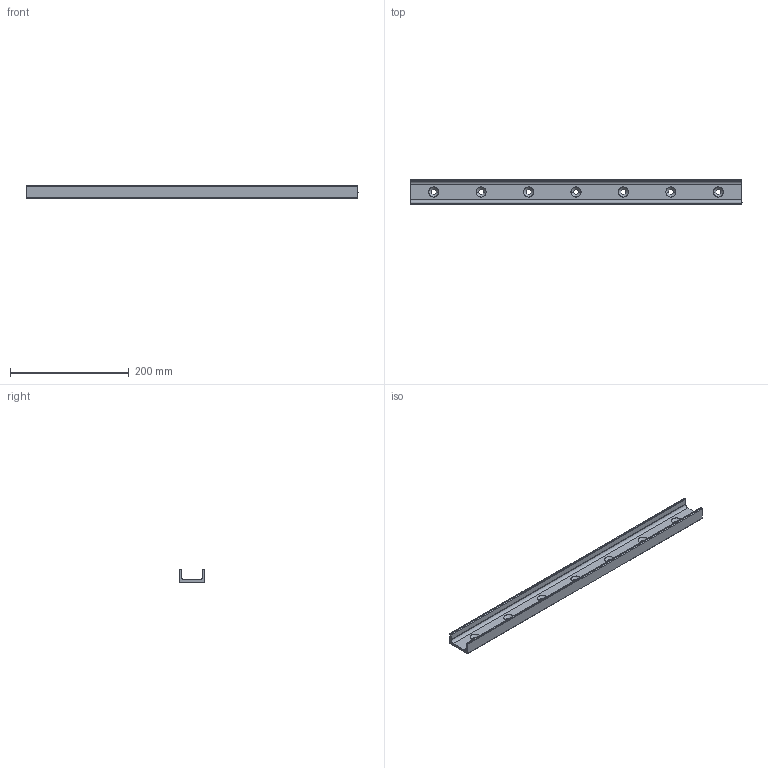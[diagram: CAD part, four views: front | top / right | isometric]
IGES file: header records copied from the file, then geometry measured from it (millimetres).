
Start section: SolidWorks IGES file using analytic representation for surfaces
Global section: file name: C:\Users\IanO\Desktop\43\L1943.ULV43_v2_20180121_IGES\L1943.ULV43-0560.igs; native system: SolidWorks 2017; preprocessor: SolidWorks 2017; author: IanO; date: 190121.085909; units: millimetre
Bounding box: 560 x 43 x 21 mm (x, y, z)
Surface area: 87413.5 mm2 (no closed solid volume)
Topology: 0 solids, 0 shells, 54 faces, 854 edges, 854 vertices
Faces by surface type: revolution 41, bspline 13
